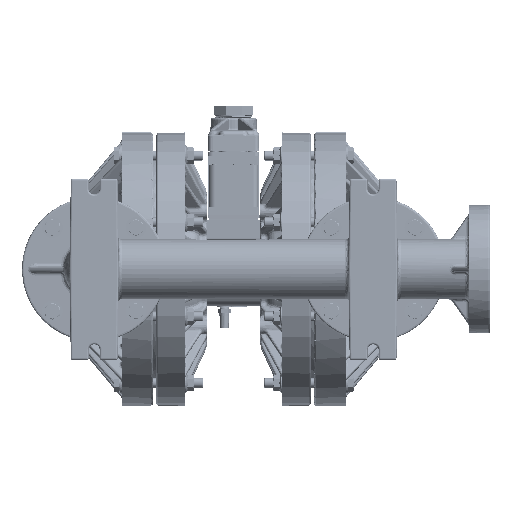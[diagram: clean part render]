
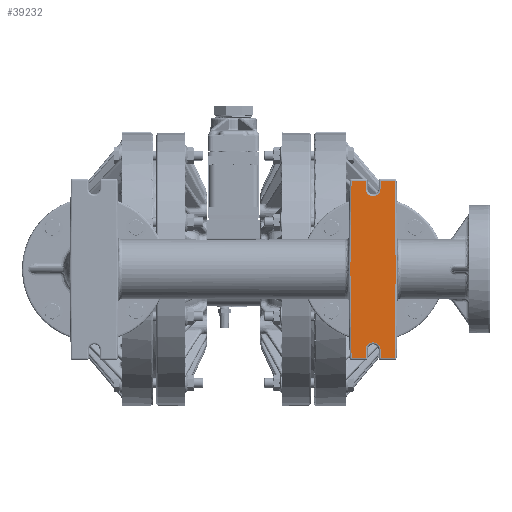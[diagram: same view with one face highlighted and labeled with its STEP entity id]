
A CAD part, front view. The second image highlights one B-rep face of the part: STEP entity #39232.
In plain terms, the highlighted planar face has unit normal (0, -1, 0).
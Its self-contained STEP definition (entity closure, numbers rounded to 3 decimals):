
#11161 = ORIENTED_EDGE ( 'NONE', *, *, #134244, .T. ) ;
#12888 = CARTESIAN_POINT ( 'NONE',  ( 5.992, -15.22, -4.51 ) ) ;
#15350 = VECTOR ( 'NONE', #823208, 39.37 ) ;
#17543 = LINE ( 'NONE', #12888, #230523 ) ;
#17680 = AXIS2_PLACEMENT_3D ( 'NONE', #407458, #917530, #558511 ) ;
#19288 = EDGE_CURVE ( 'NONE', #565454, #485576, #17543, .T. ) ;
#28907 = CARTESIAN_POINT ( 'NONE',  ( 7.463, -15.22, -4.51 ) ) ;
#39232 = ADVANCED_FACE ( 'NONE', ( #322638 ), #190252, .T. ) ;
#41814 = EDGE_CURVE ( 'NONE', #48022, #565454, #709298, .T. ) ;
#44300 = ORIENTED_EDGE ( 'NONE', *, *, #927555, .T. ) ;
#45924 = CARTESIAN_POINT ( 'NONE',  ( 6.702, -15.22, 4.09 ) ) ;
#48022 = VERTEX_POINT ( 'NONE', #384620 ) ;
#52989 = CARTESIAN_POINT ( 'NONE',  ( 5.992, -15.22, 4.51 ) ) ;
#60209 = ORIENTED_EDGE ( 'NONE', *, *, #453211, .T. ) ;
#60652 = EDGE_CURVE ( 'NONE', #863397, #780904, #297855, .T. ) ;
#65167 = EDGE_CURVE ( 'NONE', #103531, #526437, #308637, .T. ) ;
#65982 = DIRECTION ( 'NONE',  ( 0., 1., 0. ) ) ;
#82404 = CARTESIAN_POINT ( 'NONE',  ( 6.702, -15.22, 4.51 ) ) ;
#86743 = VECTOR ( 'NONE', #350892, 39.37 ) ;
#89876 = CARTESIAN_POINT ( 'NONE',  ( 6.702, -15.22, -4.51 ) ) ;
#100184 = CARTESIAN_POINT ( 'NONE',  ( 6.702, -15.22, -4.09 ) ) ;
#101790 = LINE ( 'NONE', #52989, #780844 ) ;
#103531 = VERTEX_POINT ( 'NONE', #45924 ) ;
#122642 = CARTESIAN_POINT ( 'NONE',  ( 5.992, -15.22, 4.51 ) ) ;
#131047 = VECTOR ( 'NONE', #314714, 39.37 ) ;
#134244 = EDGE_CURVE ( 'NONE', #185727, #48022, #101790, .T. ) ;
#145976 = EDGE_CURVE ( 'NONE', #362117, #671394, #856323, .T. ) ;
#154627 = DIRECTION ( 'NONE',  ( 1., 0., 0. ) ) ;
#156046 = LINE ( 'NONE', #89876, #211689 ) ;
#156892 = ORIENTED_EDGE ( 'NONE', *, *, #65167, .T. ) ;
#159081 = CARTESIAN_POINT ( 'NONE',  ( 7.463, -15.22, -4.09 ) ) ;
#167682 = VERTEX_POINT ( 'NONE', #692656 ) ;
#167754 = CARTESIAN_POINT ( 'NONE',  ( 6.702, -15.22, -4.51 ) ) ;
#170384 = DIRECTION ( 'NONE',  ( -1., 0., 0. ) ) ;
#185727 = VERTEX_POINT ( 'NONE', #122642 ) ;
#190252 = PLANE ( 'NONE',  #17680 ) ;
#208484 = CARTESIAN_POINT ( 'NONE',  ( 7.463, -15.22, -4.51 ) ) ;
#211689 = VECTOR ( 'NONE', #869387, 39.37 ) ;
#215359 = DIRECTION ( 'NONE',  ( -0.013, 0., 1. ) ) ;
#230523 = VECTOR ( 'NONE', #154627, 39.37 ) ;
#235443 = CARTESIAN_POINT ( 'NONE',  ( 7.463, -15.22, 4.51 ) ) ;
#269261 = DIRECTION ( 'NONE',  ( 1., 0., 0. ) ) ;
#282023 = EDGE_CURVE ( 'NONE', #780904, #812532, #461102, .T. ) ;
#297855 = CIRCLE ( 'NONE', #614864, 0.38 ) ;
#301094 = CARTESIAN_POINT ( 'NONE',  ( 7.463, -15.22, 4.51 ) ) ;
#303496 = EDGE_CURVE ( 'NONE', #485576, #863397, #156046, .T. ) ;
#308637 = LINE ( 'NONE', #535260, #890144 ) ;
#308794 = ORIENTED_EDGE ( 'NONE', *, *, #730721, .T. ) ;
#312919 = VECTOR ( 'NONE', #496611, 39.37 ) ;
#314714 = DIRECTION ( 'NONE',  ( 0., 0., -1. ) ) ;
#322638 = FACE_OUTER_BOUND ( 'NONE', #628880, .T. ) ;
#350216 = CARTESIAN_POINT ( 'NONE',  ( 5.933, -15.22, 0. ) ) ;
#350892 = DIRECTION ( 'NONE',  ( -1., 0., 0. ) ) ;
#362117 = VERTEX_POINT ( 'NONE', #419038 ) ;
#371052 = ORIENTED_EDGE ( 'NONE', *, *, #282023, .T. ) ;
#380553 = DIRECTION ( 'NONE',  ( -0.013, 0., -1. ) ) ;
#384620 = CARTESIAN_POINT ( 'NONE',  ( 5.933, -15.22, 0. ) ) ;
#399616 = CARTESIAN_POINT ( 'NONE',  ( 7.463, -15.22, -4.09 ) ) ;
#407458 = CARTESIAN_POINT ( 'NONE',  ( -5.833, -15.22, 4.61 ) ) ;
#417517 = EDGE_CURVE ( 'NONE', #167682, #103531, #841604, .T. ) ;
#418009 = CARTESIAN_POINT ( 'NONE',  ( 5.992, -15.22, -4.51 ) ) ;
#419038 = CARTESIAN_POINT ( 'NONE',  ( 8.173, -15.22, 4.51 ) ) ;
#432099 = EDGE_CURVE ( 'NONE', #526437, #185727, #838675, .T. ) ;
#443690 = ORIENTED_EDGE ( 'NONE', *, *, #303496, .T. ) ;
#444935 = ORIENTED_EDGE ( 'NONE', *, *, #60652, .T. ) ;
#453211 = EDGE_CURVE ( 'NONE', #812532, #508319, #926523, .T. ) ;
#453847 = DIRECTION ( 'NONE',  ( 0., 1., 0. ) ) ;
#455039 = DIRECTION ( 'NONE',  ( 0., 0., 1. ) ) ;
#461102 = LINE ( 'NONE', #159081, #131047 ) ;
#485576 = VERTEX_POINT ( 'NONE', #167754 ) ;
#496611 = DIRECTION ( 'NONE',  ( 1., 0., 0. ) ) ;
#503501 = CARTESIAN_POINT ( 'NONE',  ( 8.232, -15.22, 0. ) ) ;
#508319 = VERTEX_POINT ( 'NONE', #861185 ) ;
#509830 = AXIS2_PLACEMENT_3D ( 'NONE', #637574, #65982, #269261 ) ;
#513723 = LINE ( 'NONE', #301094, #588472 ) ;
#516451 = CARTESIAN_POINT ( 'NONE',  ( 8.173, -15.22, -4.51 ) ) ;
#520081 = CARTESIAN_POINT ( 'NONE',  ( 7.083, -15.22, -4.09 ) ) ;
#526437 = VERTEX_POINT ( 'NONE', #82404 ) ;
#535260 = CARTESIAN_POINT ( 'NONE',  ( 6.702, -15.22, 4.09 ) ) ;
#547720 = ORIENTED_EDGE ( 'NONE', *, *, #691606, .T. ) ;
#558511 = DIRECTION ( 'NONE',  ( 0., 0., -1. ) ) ;
#565454 = VERTEX_POINT ( 'NONE', #418009 ) ;
#572651 = ORIENTED_EDGE ( 'NONE', *, *, #41814, .T. ) ;
#588472 = VECTOR ( 'NONE', #721754, 39.37 ) ;
#607009 = VECTOR ( 'NONE', #638408, 39.37 ) ;
#613520 = ORIENTED_EDGE ( 'NONE', *, *, #432099, .T. ) ;
#614864 = AXIS2_PLACEMENT_3D ( 'NONE', #520081, #453847, #170384 ) ;
#628880 = EDGE_LOOP ( 'NONE', ( #444935, #371052, #60209, #44300, #308794, #831483, #547720, #686066, #156892, #613520, #11161, #572651, #887309, #443690 ) ) ;
#637574 = CARTESIAN_POINT ( 'NONE',  ( 7.083, -15.22, 4.09 ) ) ;
#638408 = DIRECTION ( 'NONE',  ( 0.013, 0., -1. ) ) ;
#639103 = CARTESIAN_POINT ( 'NONE',  ( 8.173, -15.22, 4.51 ) ) ;
#671394 = VERTEX_POINT ( 'NONE', #235443 ) ;
#686066 = ORIENTED_EDGE ( 'NONE', *, *, #417517, .T. ) ;
#691606 = EDGE_CURVE ( 'NONE', #671394, #167682, #513723, .T. ) ;
#692656 = CARTESIAN_POINT ( 'NONE',  ( 7.463, -15.22, 4.09 ) ) ;
#709298 = LINE ( 'NONE', #350216, #607009 ) ;
#716175 = LINE ( 'NONE', #503501, #819767 ) ;
#721754 = DIRECTION ( 'NONE',  ( 0., 0., -1. ) ) ;
#730721 = EDGE_CURVE ( 'NONE', #816064, #362117, #716175, .T. ) ;
#772428 = CARTESIAN_POINT ( 'NONE',  ( 6.702, -15.22, 4.51 ) ) ;
#777102 = DIRECTION ( 'NONE',  ( -1., 0., 0. ) ) ;
#780844 = VECTOR ( 'NONE', #380553, 39.37 ) ;
#780904 = VERTEX_POINT ( 'NONE', #399616 ) ;
#812532 = VERTEX_POINT ( 'NONE', #28907 ) ;
#816064 = VERTEX_POINT ( 'NONE', #865089 ) ;
#819767 = VECTOR ( 'NONE', #215359, 39.37 ) ;
#823208 = DIRECTION ( 'NONE',  ( 0.013, 0., 1. ) ) ;
#831483 = ORIENTED_EDGE ( 'NONE', *, *, #145976, .T. ) ;
#838675 = LINE ( 'NONE', #772428, #866334 ) ;
#841604 = CIRCLE ( 'NONE', #509830, 0.38 ) ;
#856323 = LINE ( 'NONE', #639103, #86743 ) ;
#861185 = CARTESIAN_POINT ( 'NONE',  ( 8.173, -15.22, -4.51 ) ) ;
#863397 = VERTEX_POINT ( 'NONE', #100184 ) ;
#865089 = CARTESIAN_POINT ( 'NONE',  ( 8.232, -15.22, 0. ) ) ;
#866334 = VECTOR ( 'NONE', #777102, 39.37 ) ;
#869387 = DIRECTION ( 'NONE',  ( 0., 0., 1. ) ) ;
#875457 = LINE ( 'NONE', #516451, #15350 ) ;
#887309 = ORIENTED_EDGE ( 'NONE', *, *, #19288, .T. ) ;
#890144 = VECTOR ( 'NONE', #455039, 39.37 ) ;
#917530 = DIRECTION ( 'NONE',  ( 0., -1., 0. ) ) ;
#926523 = LINE ( 'NONE', #208484, #312919 ) ;
#927555 = EDGE_CURVE ( 'NONE', #508319, #816064, #875457, .T. ) ;
